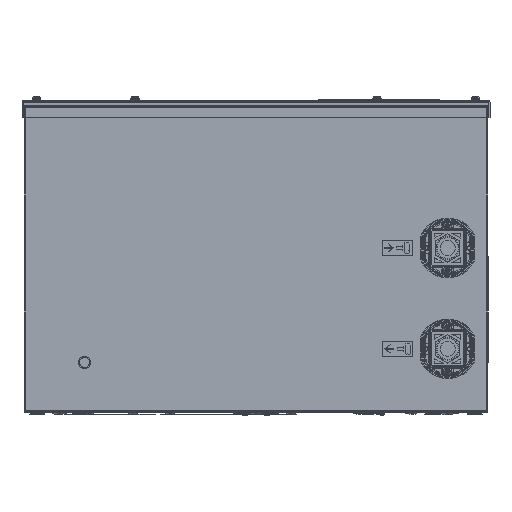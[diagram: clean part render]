
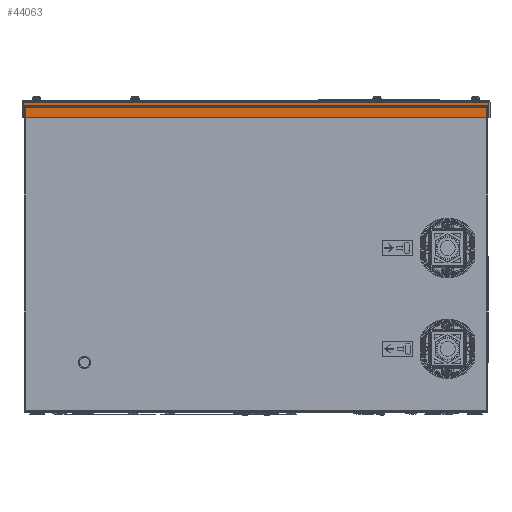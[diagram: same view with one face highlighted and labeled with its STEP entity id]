
A CAD part, front view. The second image highlights one B-rep face of the part: STEP entity #44063.
In plain terms, the highlighted planar face has unit normal (0, -1, 0) as drawn and (1, 0, 0) by its records, which use the part's own axes.
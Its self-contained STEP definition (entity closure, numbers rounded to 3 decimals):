
#43685 = VERTEX_POINT ( 'NONE', #102166 ) ;
#43686 = VERTEX_POINT ( 'NONE', #102133 ) ;
#43710 = VERTEX_POINT ( 'NONE', #102177 ) ;
#43744 = EDGE_CURVE ( 'NONE', #43686, #43685, #102327, .T. ) ;
#43754 = EDGE_CURVE ( 'NONE', #43710, #43762, #102290, .T. ) ;
#43762 = VERTEX_POINT ( 'NONE', #102318 ) ;
#43771 = EDGE_CURVE ( 'NONE', #43685, #43710, #102409, .T. ) ;
#44055 = EDGE_LOOP ( 'NONE', ( #44069, #44071, #44065, #44078 ) ) ;
#44063 = ADVANCED_FACE ( 'NONE', ( #103530 ), #103518, .F. ) ;
#44065 = ORIENTED_EDGE ( 'NONE', *, *, #43744, .F. ) ;
#44069 = ORIENTED_EDGE ( 'NONE', *, *, #43754, .F. ) ;
#44071 = ORIENTED_EDGE ( 'NONE', *, *, #43771, .F. ) ;
#44073 = EDGE_CURVE ( 'NONE', #43686, #43762, #103569, .T. ) ;
#44078 = ORIENTED_EDGE ( 'NONE', *, *, #44073, .T. ) ;
#102133 = CARTESIAN_POINT ( 'NONE',  ( 902., 2., 230.929 ) ) ;
#102166 = CARTESIAN_POINT ( 'NONE',  ( 902., 17.5, 230.929 ) ) ;
#102177 = CARTESIAN_POINT ( 'NONE',  ( 902., 17.5, -230.929 ) ) ;
#102290 = LINE ( 'NONE', #102354, #102353 ) ;
#102318 = CARTESIAN_POINT ( 'NONE',  ( 902., 2., -230.929 ) ) ;
#102320 = VECTOR ( 'NONE', #102325, 1000. ) ;
#102325 = DIRECTION ( 'NONE',  ( 0., 1., 0. ) ) ;
#102326 = CARTESIAN_POINT ( 'NONE',  ( 902., 9.75, 230.929 ) ) ;
#102327 = LINE ( 'NONE', #102326, #102320 ) ;
#102352 = DIRECTION ( 'NONE',  ( 0., -1., 0. ) ) ;
#102353 = VECTOR ( 'NONE', #102352, 1000. ) ;
#102354 = CARTESIAN_POINT ( 'NONE',  ( 902., 9.75, -230.929 ) ) ;
#102406 = DIRECTION ( 'NONE',  ( 0., 0., -1. ) ) ;
#102407 = VECTOR ( 'NONE', #102406, 1000. ) ;
#102408 = CARTESIAN_POINT ( 'NONE',  ( 902., 17.5, 0. ) ) ;
#102409 = LINE ( 'NONE', #102408, #102407 ) ;
#103511 = AXIS2_PLACEMENT_3D ( 'NONE', #103535, #103534, #103533 ) ;
#103518 = PLANE ( 'NONE',  #103511 ) ;
#103530 = FACE_OUTER_BOUND ( 'NONE', #44055, .T. ) ;
#103533 = DIRECTION ( 'NONE',  ( 0., 0., 1. ) ) ;
#103534 = DIRECTION ( 'NONE',  ( -1., 0., 0. ) ) ;
#103535 = CARTESIAN_POINT ( 'NONE',  ( 902., 2., -230.929 ) ) ;
#103563 = DIRECTION ( 'NONE',  ( 0., 0., -1. ) ) ;
#103564 = VECTOR ( 'NONE', #103563, 1000. ) ;
#103565 = CARTESIAN_POINT ( 'NONE',  ( 902., 2., 0. ) ) ;
#103569 = LINE ( 'NONE', #103565, #103564 ) ;
